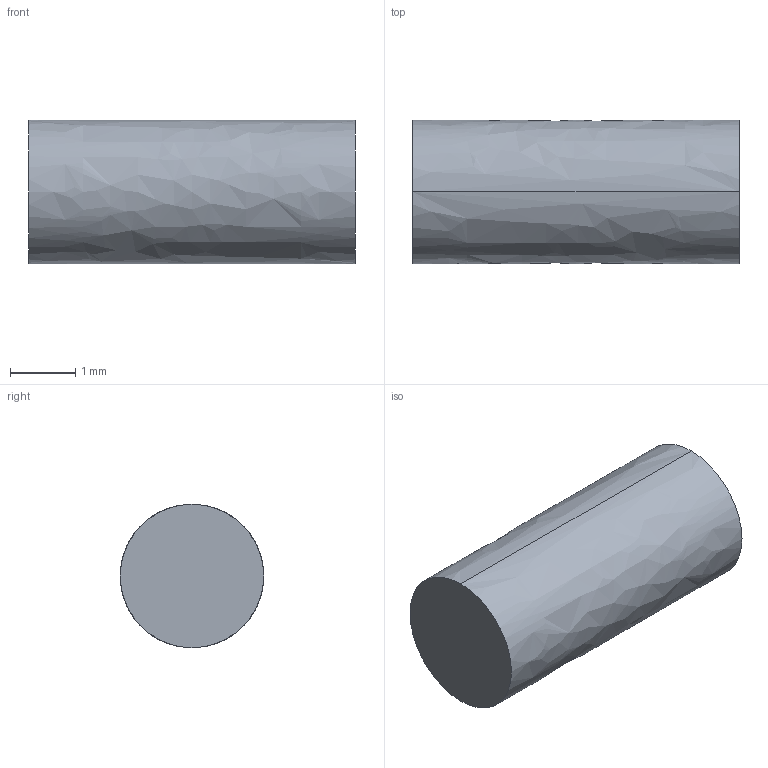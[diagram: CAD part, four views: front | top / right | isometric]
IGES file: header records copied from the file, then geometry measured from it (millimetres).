
Start section:  PTC IGES file: C:\Documents and Settings\audibk\personal\guns\walther\W alther_PPK\iges\federstift.igs
Global section: file name: C:\Documents and Settings\audibk\personal\guns\walther\Walther_PPK\iges\federstift.igs; native system: Pro/ENGINEER by Parametric Technology Corporation; preprocessor: 2002180; author: audibk; organization: Unknown; date: 030409.105325; units: millimetre
Bounding box: 5 x 2.2 x 2.2 mm (x, y, z)
Volume: 19 mm3; surface area: 42.2 mm2
Topology: 1 solids, 1 shells, 4 faces, 6 edges, 4 vertices
Faces by surface type: bspline 4
